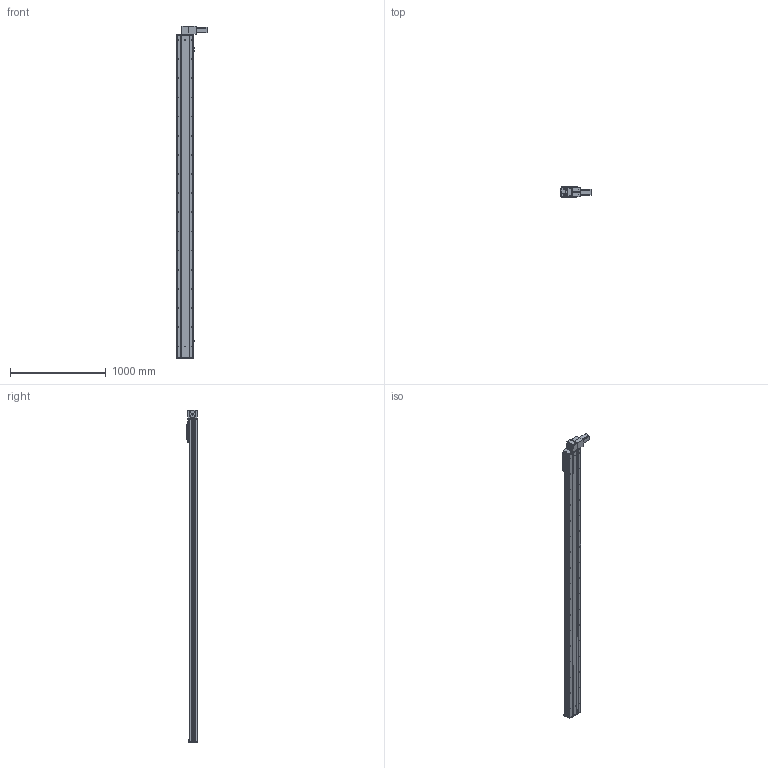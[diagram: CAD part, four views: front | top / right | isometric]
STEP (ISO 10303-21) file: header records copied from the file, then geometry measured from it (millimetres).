
FILE_DESCRIPTION (( 'STEP AP203' ), '1' );
FILE_NAME ('Y170CB-D105-S3050-BD-P400W.STEP', '2020-02-20T09:27:33', ( '微软用户' ), ( '微软中国' ), 'SwSTEP 2.0', 'SolidWorks 2017', '' );
FILE_SCHEMA (( 'CONFIG_CONTROL_DESIGN' ));
Length unit declared in the file: millimetre
Products named in the file (16): Y170CB-陔俋离換覜結え---; Y1埴倛裔; 70CB-耜裔啣-; 70B喘謫眊----; 70C--詩湍揤踡え-; 0B薊粣ん眊-400W--; 70CB--耜裔; B-源倛裔啣; Y170CB-D105-S3050-BD-P400W; 70C-雄赽釱-奻-; san松下电机400不带刹车----; 0C--雄赽釱俋欶-170; 70CB-掛极-; 70CB-詩湍--; --70CB --喘謫眊楊擘啣-; Y100-135俋离換覜ん--
Assembly tree (19 placements, depth 2):
  Y170CB-D105-S3050-BD-P400W
    B-源倛裔啣
    san松下电机400不带刹车----
    70CB-掛极-
    --70CB --喘謫眊楊擘啣-
    70CB-耜裔啣-  x2
    70C--詩湍揤踡え-  x2
    70CB--耜裔
    70C-雄赽釱-奻-
    0C--雄赽釱俋欶-170
    70CB-詩湍--
    Y100-135俋离換覜ん--  x3
    Y170CB-陔俋离換覜結え---
    Y1埴倛裔
    70B喘謫眊----
    0B薊粣ん眊-400W--
Bounding box: 313.5 x 107 x 3466 mm (x, y, z)
Volume: 14898754.5 mm3; surface area: 5254649.9 mm2
Topology: 19 solids, 19 shells, 1000 faces, 2666 edges, 1768 vertices
Faces by surface type: cylinder 554, plane 422, cone 24
Entity records: 31639 total; most frequent: CARTESIAN_POINT 5926, DIRECTION 5151, ORIENTED_EDGE 4814, EDGE_CURVE 2407, AXIS2_PLACEMENT_3D 1921, VERTEX_POINT 1598, VECTOR 1309, LINE 1309
